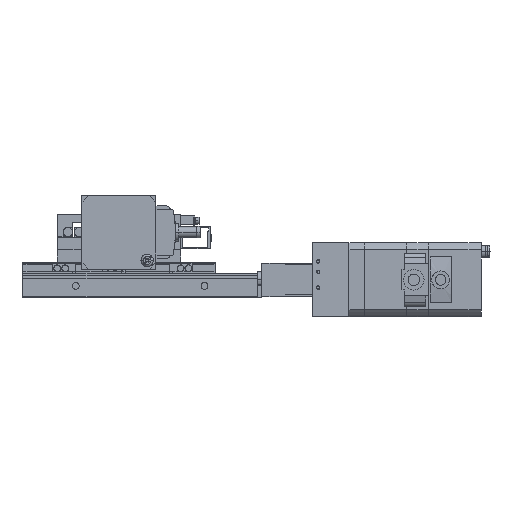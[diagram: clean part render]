
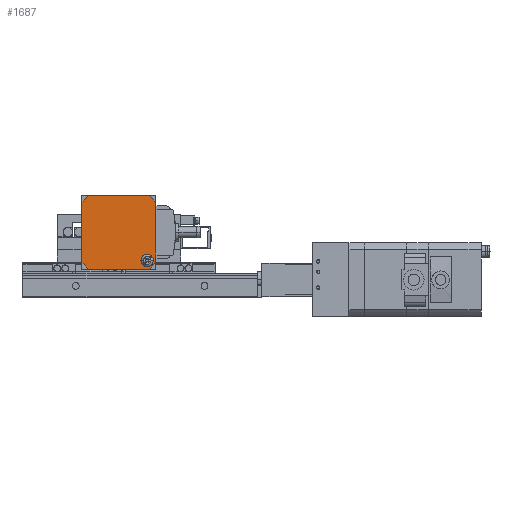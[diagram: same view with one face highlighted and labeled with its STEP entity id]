
A CAD part, front view. The second image highlights one B-rep face of the part: STEP entity #1687.
In plain terms, the highlighted planar face has unit normal (0, -1, 0).
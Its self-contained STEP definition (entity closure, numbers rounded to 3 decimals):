
#1687=ADVANCED_FACE('',(#4183,#4184),#4185,.T.);
#4183=FACE_BOUND('',#6967,.T.);
#4184=FACE_OUTER_BOUND('',#6968,.T.);
#4185=PLANE('',#6969);
#6967=EDGE_LOOP('',(#15695,#15696));
#6968=EDGE_LOOP('',(#15697,#15698,#15699,#15700,#15701,#15702,#15703,#15704));
#6969=AXIS2_PLACEMENT_3D('',#15705,#15706,#15707);
#15695=ORIENTED_EDGE('',*,*,#20344,.F.);
#15696=ORIENTED_EDGE('',*,*,#20328,.F.);
#15697=ORIENTED_EDGE('',*,*,#20346,.T.);
#15698=ORIENTED_EDGE('',*,*,#20347,.T.);
#15699=ORIENTED_EDGE('',*,*,#20348,.T.);
#15700=ORIENTED_EDGE('',*,*,#20349,.T.);
#15701=ORIENTED_EDGE('',*,*,#20350,.T.);
#15702=ORIENTED_EDGE('',*,*,#20351,.T.);
#15703=ORIENTED_EDGE('',*,*,#20352,.T.);
#15704=ORIENTED_EDGE('',*,*,#20353,.T.);
#15705=CARTESIAN_POINT('',(0.,-205.5,37.));
#15706=DIRECTION('',(0.,-1.0,0.));
#15707=DIRECTION('',(0.,0.,-1.0));
#20328=EDGE_CURVE('',#25174,#25170,#25176,.T.);
#20344=EDGE_CURVE('',#25170,#25174,#25201,.T.);
#20346=EDGE_CURVE('',#25203,#25204,#25205,.T.);
#20347=EDGE_CURVE('',#25204,#25206,#25207,.T.);
#20348=EDGE_CURVE('',#25206,#25208,#25209,.T.);
#20349=EDGE_CURVE('',#25208,#25210,#25211,.T.);
#20350=EDGE_CURVE('',#25210,#25212,#25213,.T.);
#20351=EDGE_CURVE('',#25212,#25214,#25215,.T.);
#20352=EDGE_CURVE('',#25214,#25216,#25217,.T.);
#20353=EDGE_CURVE('',#25216,#25203,#25218,.T.);
#25170=VERTEX_POINT('',#32072);
#25174=VERTEX_POINT('',#32077);
#25176=CIRCLE('',#32080,3.5);
#25201=CIRCLE('',#32143,3.5);
#25203=VERTEX_POINT('',#32145);
#25204=VERTEX_POINT('',#32146);
#25205=LINE('',#32147,#32148);
#25206=VERTEX_POINT('',#32149);
#25207=CIRCLE('',#32150,27.);
#25208=VERTEX_POINT('',#32151);
#25209=LINE('',#32152,#32153);
#25210=VERTEX_POINT('',#32154);
#25211=CIRCLE('',#32155,27.);
#25212=VERTEX_POINT('',#32156);
#25213=LINE('',#32157,#32158);
#25214=VERTEX_POINT('',#32159);
#25215=CIRCLE('',#32160,27.);
#25216=VERTEX_POINT('',#32161);
#25217=LINE('',#32162,#32163);
#25218=CIRCLE('',#32164,27.0);
#32072=CARTESIAN_POINT('',(12.5,-205.5,21.));
#32077=CARTESIAN_POINT('',(19.5,-205.5,21.));
#32080=AXIS2_PLACEMENT_3D('',#38040,#38041,#38042);
#32143=AXIS2_PLACEMENT_3D('',#38067,#38068,#38069);
#32145=CARTESIAN_POINT('',(21.,-205.5,20.029));
#32146=CARTESIAN_POINT('',(21.,-205.5,53.971));
#32147=CARTESIAN_POINT('',(21.,-205.5,20.029));
#32148=VECTOR('',#38073,1000.0);
#32149=CARTESIAN_POINT('',(16.971,-205.5,58.));
#32150=AXIS2_PLACEMENT_3D('',#38074,#38075,#38076);
#32151=CARTESIAN_POINT('',(-16.971,-205.5,58.));
#32152=CARTESIAN_POINT('',(16.971,-205.5,58.));
#32153=VECTOR('',#38077,1000.0);
#32154=CARTESIAN_POINT('',(-21.,-205.5,53.971));
#32155=AXIS2_PLACEMENT_3D('',#38078,#38079,#38080);
#32156=CARTESIAN_POINT('',(-21.,-205.5,20.029));
#32157=CARTESIAN_POINT('',(-21.,-205.5,53.971));
#32158=VECTOR('',#38081,1000.0);
#32159=CARTESIAN_POINT('',(-16.971,-205.5,16.));
#32160=AXIS2_PLACEMENT_3D('',#38082,#38083,#38084);
#32161=CARTESIAN_POINT('',(16.971,-205.5,16.));
#32162=CARTESIAN_POINT('',(-16.971,-205.5,16.));
#32163=VECTOR('',#38085,1000.0);
#32164=AXIS2_PLACEMENT_3D('',#38086,#38087,#38088);
#38040=CARTESIAN_POINT('',(16.,-205.5,21.));
#38041=DIRECTION('',(0.,-1.0,0.));
#38042=DIRECTION('',(-1.0,0.,0.));
#38067=CARTESIAN_POINT('',(16.,-205.5,21.));
#38068=DIRECTION('',(0.,-1.0,0.));
#38069=DIRECTION('',(-1.0,0.,0.));
#38073=DIRECTION('',(0.,0.,1.0));
#38074=CARTESIAN_POINT('',(0.,-205.5,37.));
#38075=DIRECTION('',(0.,-1.0,0.));
#38076=DIRECTION('',(-1.0,0.,0.));
#38077=DIRECTION('',(-1.0,0.,0.));
#38078=CARTESIAN_POINT('',(0.,-205.5,37.));
#38079=DIRECTION('',(0.,-1.0,0.));
#38080=DIRECTION('',(-1.0,0.,0.));
#38081=DIRECTION('',(0.,0.,-1.0));
#38082=CARTESIAN_POINT('',(0.,-205.5,37.));
#38083=DIRECTION('',(0.,-1.0,0.));
#38084=DIRECTION('',(-1.0,0.,0.));
#38085=DIRECTION('',(1.0,0.,0.));
#38086=CARTESIAN_POINT('',(0.,-205.5,37.));
#38087=DIRECTION('',(0.,-1.0,0.));
#38088=DIRECTION('',(-1.0,0.,0.));
